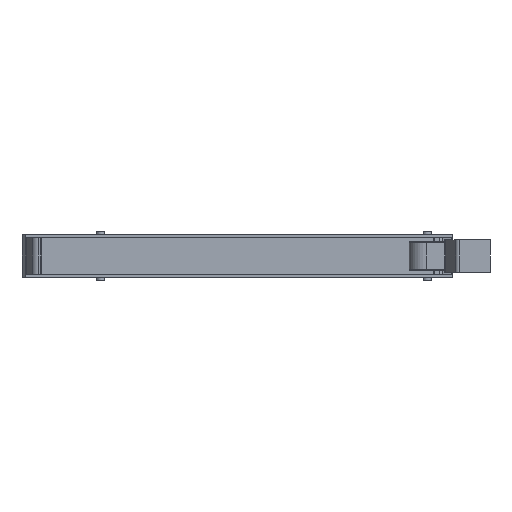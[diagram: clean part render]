
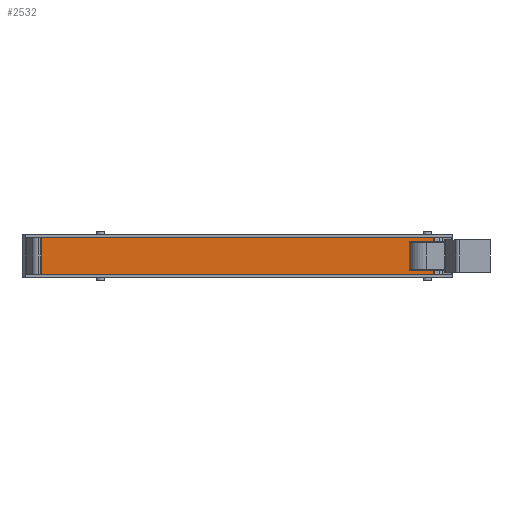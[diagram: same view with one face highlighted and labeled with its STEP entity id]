
A CAD part, front view. The second image highlights one B-rep face of the part: STEP entity #2532.
In plain terms, the highlighted planar face has unit normal (0, -1, 0).
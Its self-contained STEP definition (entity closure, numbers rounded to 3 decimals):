
#52 = AXIS2_PLACEMENT_3D ( 'NONE', #4191, #3082, #911 ) ;
#161 = DIRECTION ( 'NONE',  ( 0., 0., 1. ) ) ;
#645 = ORIENTED_EDGE ( 'NONE', *, *, #764, .T. ) ;
#692 = EDGE_CURVE ( 'NONE', #1408, #1783, #1852, .T. ) ;
#764 = EDGE_CURVE ( 'NONE', #1408, #1370, #2194, .T. ) ;
#911 = DIRECTION ( 'NONE',  ( 0., 0., -1. ) ) ;
#983 = DIRECTION ( 'NONE',  ( -1., 0., 0. ) ) ;
#995 = LINE ( 'NONE', #1322, #3797 ) ;
#1220 = VECTOR ( 'NONE', #2395, 1000. ) ;
#1322 = CARTESIAN_POINT ( 'NONE',  ( -113.5, -59.5, 23.3 ) ) ;
#1370 = VERTEX_POINT ( 'NONE', #1764 ) ;
#1408 = VERTEX_POINT ( 'NONE', #3625 ) ;
#1684 = FACE_OUTER_BOUND ( 'NONE', #2564, .T. ) ;
#1764 = CARTESIAN_POINT ( 'NONE',  ( 117., -59.5, 23.3 ) ) ;
#1783 = VERTEX_POINT ( 'NONE', #3394 ) ;
#1825 = EDGE_CURVE ( 'NONE', #1783, #4373, #1948, .T. ) ;
#1852 = LINE ( 'NONE', #4582, #3790 ) ;
#1948 = LINE ( 'NONE', #2324, #3903 ) ;
#1980 = CARTESIAN_POINT ( 'NONE',  ( 117., -59.5, -249.682 ) ) ;
#2127 = ORIENTED_EDGE ( 'NONE', *, *, #1825, .F. ) ;
#2194 = LINE ( 'NONE', #1980, #1220 ) ;
#2324 = CARTESIAN_POINT ( 'NONE',  ( -113.5, -59.5, -249.682 ) ) ;
#2395 = DIRECTION ( 'NONE',  ( 0., 0., 1. ) ) ;
#2532 = ADVANCED_FACE ( 'NONE', ( #1684 ), #2732, .T. ) ;
#2564 = EDGE_LOOP ( 'NONE', ( #2127, #3439, #645, #3101 ) ) ;
#2611 = EDGE_CURVE ( 'NONE', #4373, #1370, #995, .T. ) ;
#2732 = PLANE ( 'NONE',  #52 ) ;
#3011 = CARTESIAN_POINT ( 'NONE',  ( -113.5, -59.5, 23.3 ) ) ;
#3082 = DIRECTION ( 'NONE',  ( 0., -1., 0. ) ) ;
#3101 = ORIENTED_EDGE ( 'NONE', *, *, #2611, .F. ) ;
#3394 = CARTESIAN_POINT ( 'NONE',  ( -113.5, -59.5, 1.7 ) ) ;
#3439 = ORIENTED_EDGE ( 'NONE', *, *, #692, .F. ) ;
#3504 = DIRECTION ( 'NONE',  ( 1., 0., 0. ) ) ;
#3625 = CARTESIAN_POINT ( 'NONE',  ( 117., -59.5, 1.7 ) ) ;
#3790 = VECTOR ( 'NONE', #983, 1000. ) ;
#3797 = VECTOR ( 'NONE', #3504, 1000. ) ;
#3903 = VECTOR ( 'NONE', #161, 1000. ) ;
#4191 = CARTESIAN_POINT ( 'NONE',  ( -113.5, -59.5, -249.682 ) ) ;
#4373 = VERTEX_POINT ( 'NONE', #3011 ) ;
#4582 = CARTESIAN_POINT ( 'NONE',  ( -113.5, -59.5, 1.7 ) ) ;
